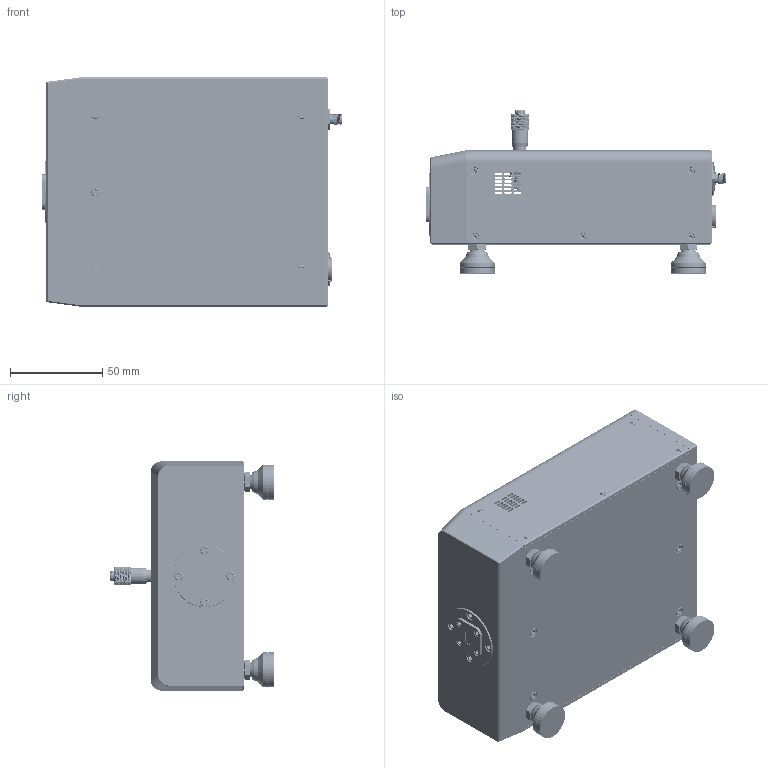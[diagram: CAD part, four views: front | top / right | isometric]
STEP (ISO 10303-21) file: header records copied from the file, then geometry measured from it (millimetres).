
FILE_DESCRIPTION (( 'STEP AP214' ), '1' );
FILE_NAME ('TE-A.STEP', '2025-01-10T22:41:27', ( '' ), ( '' ), 'SwSTEP 2.0', 'SolidWorks 2021', '' );
FILE_SCHEMA (( 'AUTOMOTIVE_DESIGN' ));
Length unit declared in the file: inch
Products named in the file (1): TE-A
Bounding box: 162.31 x 88.53 x 124.32 mm (x, y, z)
Volume: 316125.4 mm3; surface area: 174420.1 mm2
Topology: 59 solids, 59 shells, 7767 faces, 18658 edges, 11062 vertices
Faces by surface type: cylinder 2897, bspline 2688, plane 1477, cone 629, sphere 40, torus 36
Entity records: 756432 total; most frequent: CARTESIAN_POINT 617154, ORIENTED_EDGE 37154, DIRECTION 20059, EDGE_CURVE 18577, VERTEX_POINT 11051, EDGE_LOOP 8110, FACE_OUTER_BOUND 7767, ADVANCED_FACE 7767
